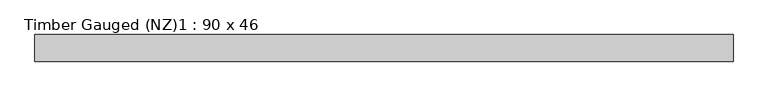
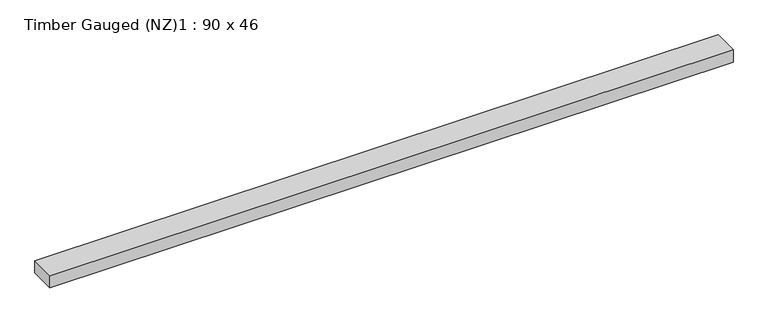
"""IFC4 building model written with IfcOpenShell, lengths in millimetres: beam geometry, Timber Gauged (NZ)1 : 90 x 46."""

import ifcopenshell
import ifcopenshell.guid

model = None  # the IFC model being written
_history = None  # IfcOwnerHistory: only IFC2X3 demands one
_inside = {}  # id of a spatial element -> (the spatial element, [elements in it])
_under = {}  # id of a project, library or spatial element -> (it, [spatial elements below it])
_declared = {}  # id of a project -> (the project, [libraries it declares])
_typed = {}  # id of a type object -> (the type object, [elements of that type])
_made_of = {}  # id of a material, layer set ... -> (it, [elements and type objects made of it])


def new_model(schema):
    """Start an empty IFC model of exactly this schema.

    Asked for "IFC4X3", IfcOpenShell would pick the latest addendum, in which some entities
    have other attributes; the version numbers below select the first issue.
    IFC2X3 requires an IfcOwnerHistory on every rooted entity: one is made here for all.
    """
    global model, _history
    if schema == "IFC4X3":
        model = ifcopenshell.file(schema_version=(4, 3, 0, 0))
    else:
        model = ifcopenshell.file(schema=schema)
    _inside.clear()
    _under.clear()
    _declared.clear()
    _typed.clear()
    _made_of.clear()
    _history = None
    if model.schema == "IFC2X3":
        org = make("IfcOrganization", Name="unknown")
        user = make(
            "IfcPersonAndOrganization",
            ThePerson=make("IfcPerson", FamilyName="unknown"),
            TheOrganization=org,
        )
        app = make(
            "IfcApplication",
            ApplicationDeveloper=org,
            Version="unknown",
            ApplicationFullName="unknown",
            ApplicationIdentifier="unknown",
        )
        _history = make(
            "IfcOwnerHistory",
            OwningUser=user,
            OwningApplication=app,
            ChangeAction="ADDED",
            CreationDate=0,
        )
    return model


def make(cls, **values):
    """One entity of the class cls with the attributes given. An attribute that is None is left unset."""
    return model.create_entity(
        cls, **{name: value for name, value in values.items() if value is not None}
    )


def rooted(cls, **values):
    """An entity with a GlobalId (a new one), such as an element, a storey or a relation."""
    return make(cls, GlobalId=ifcopenshell.guid.new(), OwnerHistory=_history, **values)


def si_unit(unit_type, name, prefix=None):
    """IfcSIUnit, for example si_unit("LENGTHUNIT", "METRE", prefix="MILLI")."""
    return make("IfcSIUnit", UnitType=unit_type, Prefix=prefix, Name=name)


def assignment(units):
    """IfcUnitAssignment: the units of a project."""
    return None if units is None else make("IfcUnitAssignment", Units=units)


def point(xyz):
    """IfcCartesianPoint."""
    return None if xyz is None else make("IfcCartesianPoint", Coordinates=xyz)


def direction(xyz):
    """IfcDirection."""
    return None if xyz is None else make("IfcDirection", DirectionRatios=xyz)


def frame(location, z_axis=None, x_axis=None):
    """IfcAxis2Placement3D, a coordinate frame: its origin and axes. An axis left out is left unset."""
    return make(
        "IfcAxis2Placement3D",
        Location=point(location),
        Axis=direction(z_axis),
        RefDirection=direction(x_axis),
    )


def origin():
    """The frame at (0, 0, 0) with its axes left unset."""
    return frame((0.0, 0.0, 0.0))


def place(relative_to, where):
    """IfcLocalPlacement: puts the frame where relative to a parent placement (None: the world)."""
    return make(
        "IfcLocalPlacement", PlacementRelTo=relative_to, RelativePlacement=where
    )


def context(
    kind, dimensions, precision=None, world=None, true_north=None, identifier=None
):
    """IfcGeometricRepresentationContext, for example the 3D "Model" context."""
    return make(
        "IfcGeometricRepresentationContext",
        ContextIdentifier=identifier,
        ContextType=kind,
        CoordinateSpaceDimension=dimensions,
        Precision=precision,
        WorldCoordinateSystem=world,
        TrueNorth=true_north,
    )


def project(units=None, contexts=None):
    """IfcProject with its units and contexts."""
    return rooted(
        "IfcProject",
        Name="project",
        RepresentationContexts=contexts,
        UnitsInContext=assignment(units),
    )


def spatial(cls, under=None, at=None, **own):
    """A site, building, storey or space (cls), placed at a placement, below another one or the project."""
    s = rooted(cls, ObjectPlacement=at, **own)
    if under is not None:
        _under.setdefault(under.id(), (under, []))[1].append(s)
    return s


def polyline(points):
    """IfcPolyline through the points."""
    return make("IfcPolyline", Points=[point(p) for p in points])


def outline(outer, holes=None, kind="AREA"):
    """IfcArbitraryClosedProfileDef: a profile drawn as a closed curve; with holes, ...WithVoids."""
    if holes is None:
        return make("IfcArbitraryClosedProfileDef", ProfileType=kind, OuterCurve=outer)
    return make(
        "IfcArbitraryProfileDefWithVoids",
        ProfileType=kind,
        OuterCurve=outer,
        InnerCurves=holes,
    )


def extrude(swept, where, along, depth):
    """IfcExtrudedAreaSolid: the profile swept, set in the frame where, extruded along a direction by depth."""
    return make(
        "IfcExtrudedAreaSolid",
        SweptArea=swept,
        Position=where,
        ExtrudedDirection=direction(along),
        Depth=depth,
    )


def shape(context_of_items, identifier, shape_type, items):
    """IfcShapeRepresentation: the items that make up one representation, for example the "Body"."""
    return make(
        "IfcShapeRepresentation",
        ContextOfItems=context_of_items,
        RepresentationIdentifier=identifier,
        RepresentationType=shape_type,
        Items=items,
    )


def source(mapping_origin, context_of_items, identifier, shape_type, items):
    """IfcRepresentationMap: a shape defined once, which mapped items show again and again."""
    return make(
        "IfcRepresentationMap",
        MappingOrigin=mapping_origin,
        MappedRepresentation=shape(context_of_items, identifier, shape_type, items),
    )


def transform(
    local_origin,
    x_axis=None,
    y_axis=None,
    z_axis=None,
    scale=None,
    scale2=None,
    scale3=None,
    uniform=True,
):
    """IfcCartesianTransformationOperator3D, or its non-uniform kind. x_axis, y_axis, z_axis: its Axis1, 2, 3."""
    if uniform:
        return make(
            "IfcCartesianTransformationOperator3D",
            Axis1=direction(x_axis),
            Axis2=direction(y_axis),
            LocalOrigin=point(local_origin),
            Scale=scale,
            Axis3=direction(z_axis),
        )
    return make(
        "IfcCartesianTransformationOperator3DnonUniform",
        Axis1=direction(x_axis),
        Axis2=direction(y_axis),
        LocalOrigin=point(local_origin),
        Scale=scale,
        Axis3=direction(z_axis),
        Scale2=scale2,
        Scale3=scale3,
    )


def mapped(mapping_source, mapping_target):
    """IfcMappedItem: shows the shape of a source again, moved by a transform."""
    return make(
        "IfcMappedItem", MappingSource=mapping_source, MappingTarget=mapping_target
    )


def made_of(thing, what):
    """Note that an element or type object is made of a material, layer set ...; save() writes the relation."""
    if what is not None:
        _made_of.setdefault(what.id(), (what, []))[1].append(thing)
    return thing


def element(
    cls,
    number,
    at=None,
    inside=None,
    cuts=None,
    type_object=None,
    material=None,
    context=None,
    identifier="Body",
    shape_type=None,
    held_by="IfcProductDefinitionShape",
    body=None,
    shapes=None,
    **own,
):
    """One element of the class cls, such as IfcWall. Its Tag is "e" and its number.

    at: its placement. inside: the storey or other place that contains it. cuts: it is an
    opening in that element (IfcRelVoidsElement). A single representation is given by context,
    identifier, shape_type and body (its items); several are given by shapes. held_by: the class
    of the entity that holds the representations. save() writes the other relations.
    """
    e = rooted(cls, Tag="e%d" % number, ObjectPlacement=at, **own)
    if body is not None:
        shapes = [shape(context, identifier, shape_type, body)]
    if shapes is not None:
        e.Representation = make(held_by, Representations=shapes)
    if inside is not None:
        _inside.setdefault(inside.id(), (inside, []))[1].append(e)
    if cuts is not None:
        rooted(
            "IfcRelVoidsElement", RelatingBuildingElement=cuts, RelatedOpeningElement=e
        )
    if type_object is not None:
        _typed.setdefault(type_object.id(), (type_object, []))[1].append(e)
    return made_of(e, material)


def aggregate(whole, parts):
    """IfcRelAggregates: a whole, such as a stair, and the parts it consists of."""
    return rooted("IfcRelAggregates", RelatingObject=whole, RelatedObjects=parts)


def save(model, path):
    """Write the relations noted so far, then the file.

    IfcRelAggregates (storeys below a building ...), IfcRelContainedInSpatialStructure (elements
    in a storey), IfcRelDefinesByType, IfcRelAssociatesMaterial and IfcRelDeclares: one each for
    every whole, place, type object, material and project.
    """
    for whole, parts in _under.values():
        aggregate(whole, parts)
    for where, things in _inside.values():
        rooted(
            "IfcRelContainedInSpatialStructure",
            RelatedElements=things,
            RelatingStructure=where,
        )
    for kind, things in _typed.values():
        rooted("IfcRelDefinesByType", RelatedObjects=things, RelatingType=kind)
    for what, things in _made_of.values():
        rooted("IfcRelAssociatesMaterial", RelatedObjects=things, RelatingMaterial=what)
    for by, libraries in _declared.values():
        rooted("IfcRelDeclares", RelatingContext=by, RelatedDefinitions=libraries)
    model.write(path)


def timber_gauged_nz_1_90_x_46_53651bef(model_context):
    return source(origin(), model_context, "Body", "SweptSolid", [
        extrude(outline(polyline([(1180.7207809, 45.0), (1180.7207809, -45.0), (-1180.7207809, -45.0), (-1180.7207809, 45.0), (1180.7207809, 45.0)])), frame((0.0, 0.0, -22.5), z_axis=(0.0, 0.0, 1.0), x_axis=(1.0, 0.0, 0.0)), (0.0, 0.0, 1.0), 45.0),
    ])


if __name__ == "__main__":
    model = new_model("IFC4")
    model_context = context("Model", 3, world=origin())
    ifc_project = project(units=[si_unit("LENGTHUNIT", "METRE", prefix="MILLI")], contexts=[model_context])
    site = spatial("IfcSite", under=ifc_project)
    building = spatial("IfcBuilding", under=site)
    placement = place(None, origin())
    timber_gauged_nz_1_90_x_46_shape = timber_gauged_nz_1_90_x_46_53651bef(model_context)
    element("IfcBeam", 1, ObjectType="Timber Gauged (NZ)1 : 90 x 46", at=placement, inside=building, context=model_context, shape_type="MappedRepresentation", body=[
        mapped(timber_gauged_nz_1_90_x_46_shape, transform((0.0, 0.0, 0.0), x_axis=(1.0, 0.0, 0.0), y_axis=(0.0, 1.0, 0.0), z_axis=(0.0, 0.0, 1.0))),
    ])
    save(model, "model.ifc")
